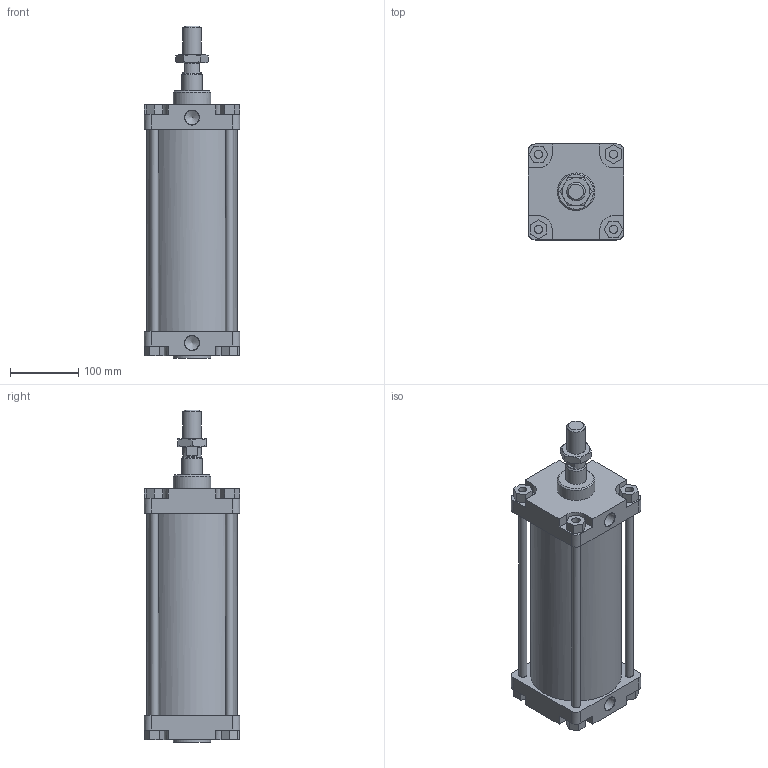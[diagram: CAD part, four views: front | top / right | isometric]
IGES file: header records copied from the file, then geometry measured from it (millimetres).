
Global section: file name: 1305_125_0200_01A; native system: Autodesk Inventor 2014; preprocessor: unknown; author: A. Manieri; date: 20161124.143249; units: millimetre
Bounding box: 140 x 140 x 486 mm (x, y, z)
Volume: 3344651.4 mm3; surface area: 533187.2 mm2
Topology: 9 solids, 9 shells, 175 faces, 440 edges, 295 vertices
Faces by surface type: bspline 175
